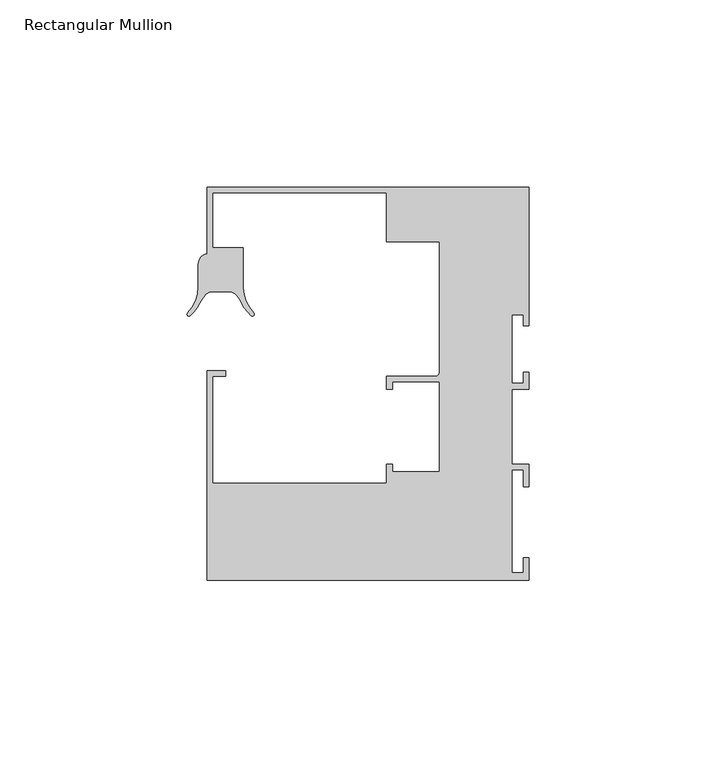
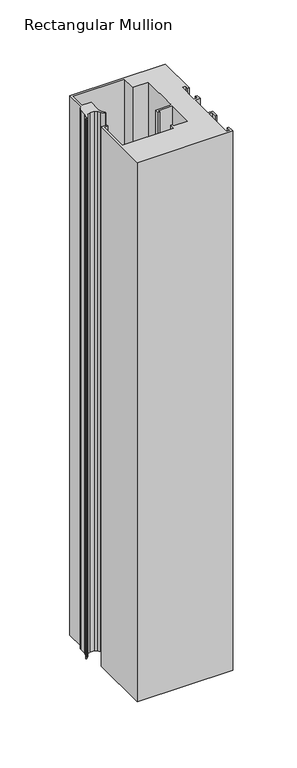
"""IFC4 building model written with IfcOpenShell, lengths in millimetres: member geometry, Rectangular Mullion : Danpal_Airpt_End-Mullion_B1."""

from ifc_helpers import new_model, si_unit, point, frame, frame_2d, origin, place, context, project, spatial, polyline, circle_curve, trimmed, segment, composite_curve, outline, extrude, source, transform, mapped, element, save


def rectangular_mullion_49af61fe(model_context):
    return source(origin(), model_context, "Body", "SweptSolid", [
        extrude(outline(composite_curve([segment(polyline([(-84.5, -44.249979), (-38.0, -44.249979), (-38.0, -39.2500001), (-36.4, -39.2500001), (-36.4, -41.2500001), (-23.9180899, -41.2500001), (-23.9180899, -17.2500031), (-36.4180899, -17.2500031), (-36.4180899, -19.2500031), (-38.0180899, -19.2500031), (-38.0180899, -15.7500031), (-24.969716, -15.7500031)]), True, "CONTINUOUS"), segment(trimmed(circle_curve(frame_2d((-24.969716, -14.698377)), 1.0516261), [point((-24.969716, -15.7500031))], [point((-23.9180899, -14.698377))], True, "CARTESIAN"), True, "CONTINUOUS"), segment(polyline([(-23.9180899, -14.698377), (-23.9180899, 20.2499969), (-38.0180899, 20.2499969), (-38.0180899, 33.2499969), (-84.5180945, 33.2499969), (-84.5180945, 18.6499969), (-76.3180945, 18.6499969), (-76.3180945, 7.8643287)]), True, "CONTINUOUS"), segment(trimmed(circle_curve(frame_2d((-66.322244, 8.1523787)), 10.0), [point((-76.3180945, 7.8643287))], [point((-73.5120728, 1.2021009))], True, "CARTESIAN"), True, "CONTINUOUS"), segment(trimmed(circle_curve(frame_2d((-73.8718016, 0.8543575)), 0.5003301), [point((-73.5120728, 1.2021009))], [point((-74.1944462, 0.4719563))], False, "CARTESIAN"), True, "CONTINUOUS"), segment(trimmed(circle_curve(frame_2d((-67.7458114, 8.1149337)), 9.9999997), [point((-74.1944462, 0.4719563))], [point((-76.759944, 3.7853369))], False, "CARTESIAN"), True, "CONTINUOUS"), segment(trimmed(circle_curve(frame_2d((-85.7740768, -0.5442599)), 10.0), [point((-76.759944, 3.7853369))], [point((-77.9898528, 5.7331484))], True, "CARTESIAN"), True, "CONTINUOUS"), segment(trimmed(circle_curve(frame_2d((-80.32512, 3.8499259)), 3.0), [point((-77.9898528, 5.7331484))], [point((-80.32512, 6.8499259))], True, "CARTESIAN"), True, "CONTINUOUS"), segment(polyline([(-80.32512, 6.8499259), (-84.363764, 6.8499259)]), True, "CONTINUOUS"), segment(trimmed(circle_curve(frame_2d((-84.363764, 3.8499259)), 3.0), [point((-84.363764, 6.8499259))], [point((-86.6990305, 5.7331494))], True, "CARTESIAN"), True, "CONTINUOUS"), segment(trimmed(circle_curve(frame_2d((-78.9148092, -0.544262)), 9.9999997), [point((-86.6990305, 5.7331494))], [point((-87.9289412, 3.785336))], True, "CARTESIAN"), True, "CONTINUOUS"), segment(trimmed(circle_curve(frame_2d((-96.9430732, 8.114934)), 9.9999998), [point((-87.9289412, 3.785336))], [point((-90.4970116, 0.4697862))], False, "CARTESIAN"), True, "CONTINUOUS"), segment(trimmed(circle_curve(frame_2d((-90.8194227, 0.8521716)), 0.5001675), [point((-90.4970116, 0.4697862))], [point((-91.1789286, 1.1999114))], False, "CARTESIAN"), True, "CONTINUOUS"), segment(trimmed(circle_curve(frame_2d((-98.3666403, 8.1523787)), 10.0), [point((-91.1789286, 1.1999114))], [point((-88.3666989, 8.1181379))], True, "CARTESIAN"), True, "CONTINUOUS"), segment(polyline([(-88.3666989, 8.1181379), (-88.3666989, 14.1183419)]), True, "CONTINUOUS"), segment(trimmed(circle_curve(frame_2d((-85.366716, 14.1081309)), 3.0000002), [point((-88.3666989, 14.1183419))], [point((-86.0180914, 17.0365625))], False, "CARTESIAN"), True, "CONTINUOUS"), segment(polyline([(-86.0180914, 17.0365625), (-86.0180914, 34.75), (-0.0180922, 34.75), (-0.0180922, -2.25), (-1.5180922, -2.25), (-1.5180922, 0.75), (-4.5180922, 0.75), (-4.5180922, -17.65), (-1.5180922, -17.65), (-1.5180922, -14.65), (-0.0180922, -14.65), (-0.0180922, -19.25), (-4.5, -19.25), (-4.5, -39.2500001), (-0.0180937, -39.2500001), (-0.0180937, -45.2500001), (-1.5180937, -45.2500001), (-1.5180937, -40.7500001), (-4.5, -40.7500001), (-4.5, -68.2500001), (-1.5, -68.2500001), (-1.5, -64.2500001), (0.0, -64.2500001), (0.0, -70.2500001), (-86.0, -70.2500001), (-86.0, -14.2500001), (-81.0, -14.2500001), (-81.0, -15.7500001), (-84.5, -15.7500001), (-84.5, -44.249979)]), True, "CONTINUOUS")], self_intersect=False)), frame((0.0, 0.0, -513.8485021), z_axis=(0.0, 0.0, 1.0), x_axis=(1.0, 0.0, 0.0)), (0.0, 0.0, 1.0), 513.8485021),
    ])


if __name__ == "__main__":
    model = new_model("IFC4")
    model_context = context("Model", 3, world=origin())
    ifc_project = project(units=[si_unit("LENGTHUNIT", "METRE", prefix="MILLI")], contexts=[model_context])
    site = spatial("IfcSite", under=ifc_project)
    building = spatial("IfcBuilding", under=site)
    placement = place(None, origin())
    rectangular_mullion_shape = rectangular_mullion_49af61fe(model_context)
    element("IfcMember", 1, ObjectType="Rectangular Mullion : Danpal_Airpt_End-Mullion_B1", at=placement, inside=building, context=model_context, shape_type="MappedRepresentation", body=[
        mapped(rectangular_mullion_shape, transform((0.0, 0.0, 0.0), x_axis=(1.0, 0.0, 0.0), y_axis=(0.0, 1.0, 0.0), z_axis=(0.0, 0.0, 1.0))),
    ])
    save(model, "model.ifc")
